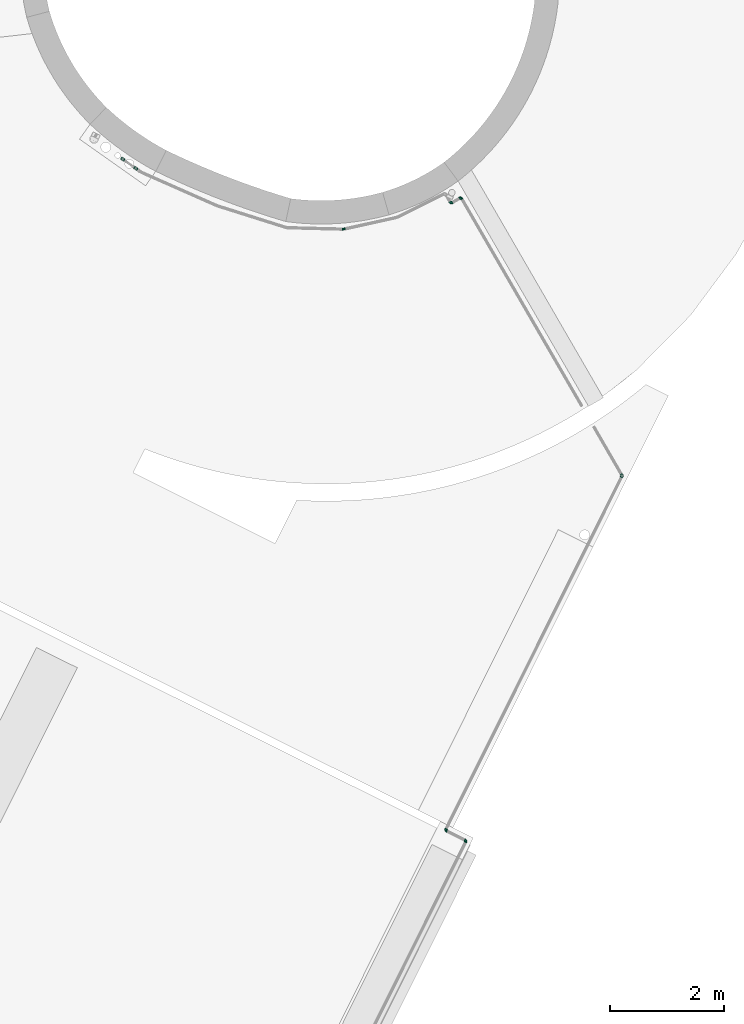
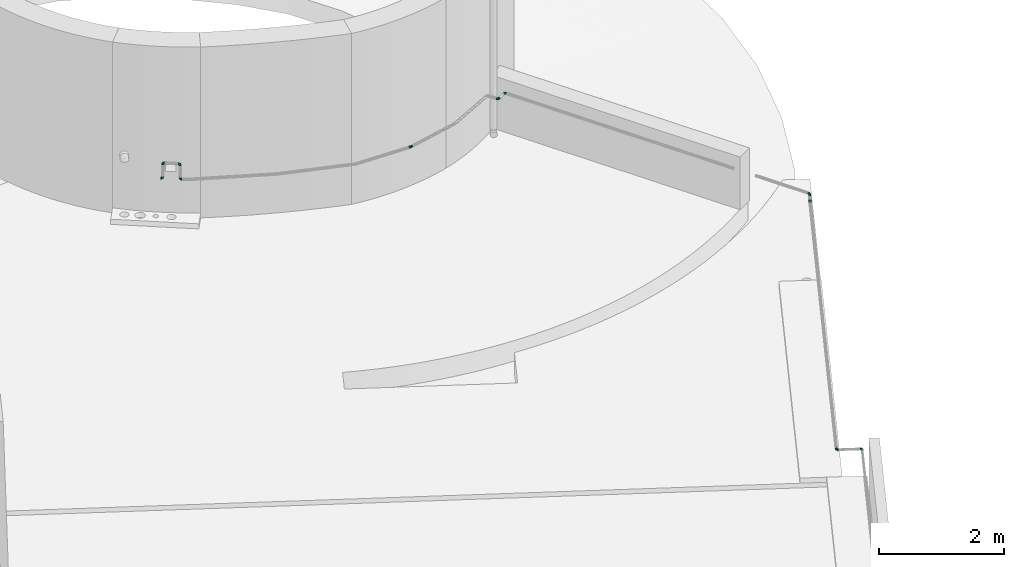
# One storey, part 29 of 34: 11 flow fittings.
"""IFC2X3 building model written with IfcOpenShell, lengths in metres."""

import ifcopenshell
import ifcopenshell.guid

model = None  # the IFC model being written
_history = None  # IfcOwnerHistory: only IFC2X3 demands one
_inside = {}  # id of a spatial element -> (the spatial element, [elements in it])
_under = {}  # id of a project, library or spatial element -> (it, [spatial elements below it])
_declared = {}  # id of a project -> (the project, [libraries it declares])
_typed = {}  # id of a type object -> (the type object, [elements of that type])
_made_of = {}  # id of a material, layer set ... -> (it, [elements and type objects made of it])


def new_model(schema):
    """Start an empty IFC model of exactly this schema.

    Asked for "IFC4X3", IfcOpenShell would pick the latest addendum, in which some entities
    have other attributes; the version numbers below select the first issue.
    IFC2X3 requires an IfcOwnerHistory on every rooted entity: one is made here for all.
    """
    global model, _history
    if schema == "IFC4X3":
        model = ifcopenshell.file(schema_version=(4, 3, 0, 0))
    else:
        model = ifcopenshell.file(schema=schema)
    _inside.clear()
    _under.clear()
    _declared.clear()
    _typed.clear()
    _made_of.clear()
    _history = None
    if model.schema == "IFC2X3":
        org = make("IfcOrganization", Name="unknown")
        user = make(
            "IfcPersonAndOrganization",
            ThePerson=make("IfcPerson", FamilyName="unknown"),
            TheOrganization=org,
        )
        app = make(
            "IfcApplication",
            ApplicationDeveloper=org,
            Version="unknown",
            ApplicationFullName="unknown",
            ApplicationIdentifier="unknown",
        )
        _history = make(
            "IfcOwnerHistory",
            OwningUser=user,
            OwningApplication=app,
            ChangeAction="ADDED",
            CreationDate=0,
        )
    return model


def make(cls, **values):
    """One entity of the class cls with the attributes given. An attribute that is None is left unset."""
    return model.create_entity(
        cls, **{name: value for name, value in values.items() if value is not None}
    )


def entity(cls, *values):
    """Any entity or typed value of the class cls, its attributes in the order of the schema. None: left unset."""
    e = model.create_entity(cls)
    for i, value in enumerate(values):
        if value is not None:
            e[i] = value
    return e


def rooted(cls, **values):
    """An entity with a GlobalId (a new one), such as an element, a storey or a relation."""
    return make(cls, GlobalId=ifcopenshell.guid.new(), OwnerHistory=_history, **values)


def si_unit(unit_type, name, prefix=None):
    """IfcSIUnit, for example si_unit("LENGTHUNIT", "METRE", prefix="MILLI")."""
    return make("IfcSIUnit", UnitType=unit_type, Prefix=prefix, Name=name)


def converted_unit(unit_type, name, factor, base, dimensions=None, offset=None):
    """IfcConversionBasedUnit, such as the inch: factor (a typed value) times the base unit."""
    return make(
        "IfcConversionBasedUnit"
        if offset is None
        else "IfcConversionBasedUnitWithOffset",
        ConversionOffset=offset,
        Dimensions=None
        if dimensions is None
        else entity("IfcDimensionalExponents", *dimensions),
        UnitType=unit_type,
        Name=name,
        ConversionFactor=make(
            "IfcMeasureWithUnit", ValueComponent=factor, UnitComponent=base
        ),
    )


def derived_unit(unit_type, elements):
    """IfcDerivedUnit: a product of units, each with its exponent."""
    return make(
        "IfcDerivedUnit",
        Elements=[
            make("IfcDerivedUnitElement", Unit=unit, Exponent=power)
            for unit, power in elements
        ],
        UnitType=unit_type,
    )


def assignment(units):
    """IfcUnitAssignment: the units of a project."""
    return None if units is None else make("IfcUnitAssignment", Units=units)


def point(xyz):
    """IfcCartesianPoint."""
    return None if xyz is None else make("IfcCartesianPoint", Coordinates=xyz)


def direction(xyz):
    """IfcDirection."""
    return None if xyz is None else make("IfcDirection", DirectionRatios=xyz)


def frame(location, z_axis=None, x_axis=None):
    """IfcAxis2Placement3D, a coordinate frame: its origin and axes. An axis left out is left unset."""
    return make(
        "IfcAxis2Placement3D",
        Location=point(location),
        Axis=direction(z_axis),
        RefDirection=direction(x_axis),
    )


def origin():
    """The frame at (0, 0, 0) with its axes left unset."""
    return frame((0.0, 0.0, 0.0))


def place(relative_to, where):
    """IfcLocalPlacement: puts the frame where relative to a parent placement (None: the world)."""
    return make(
        "IfcLocalPlacement", PlacementRelTo=relative_to, RelativePlacement=where
    )


def context(
    kind, dimensions, precision=None, world=None, true_north=None, identifier=None
):
    """IfcGeometricRepresentationContext, for example the 3D "Model" context."""
    return make(
        "IfcGeometricRepresentationContext",
        ContextIdentifier=identifier,
        ContextType=kind,
        CoordinateSpaceDimension=dimensions,
        Precision=precision,
        WorldCoordinateSystem=world,
        TrueNorth=true_north,
    )


def subcontext(parent, identifier, kind, view, scale=None):
    """IfcGeometricRepresentationSubContext, for example "Body" below "Model"."""
    return make(
        "IfcGeometricRepresentationSubContext",
        ContextIdentifier=identifier,
        ContextType=kind,
        ParentContext=parent,
        TargetScale=scale,
        TargetView=view,
    )


def project(units=None, contexts=None):
    """IfcProject with its units and contexts."""
    return rooted(
        "IfcProject",
        Name="project",
        RepresentationContexts=contexts,
        UnitsInContext=assignment(units),
    )


def spatial(cls, under=None, at=None, **own):
    """A site, building, storey or space (cls), placed at a placement, below another one or the project."""
    s = rooted(cls, ObjectPlacement=at, **own)
    if under is not None:
        _under.setdefault(under.id(), (under, []))[1].append(s)
    return s


def faces_of(points, faces, orient=None, outer=None):
    """IfcFace entities. A face is a list of loops; a loop is a list of indices into points, from 0.

    orient and outer hold one flag for each loop. By default every Orientation is true, the
    first loop of a face is its IfcFaceOuterBound and the others are IfcFaceBound.
    """
    made = []
    for i, loops in enumerate(faces):
        bounds = []
        for j, loop in enumerate(loops):
            is_outer = j == 0 if outer is None else outer[i][j]
            bounds.append(
                make(
                    "IfcFaceOuterBound" if is_outer else "IfcFaceBound",
                    Bound=make("IfcPolyLoop", Polygon=[points[k] for k in loop]),
                    Orientation=True if orient is None else orient[i][j],
                )
            )
        made.append(make("IfcFace", Bounds=bounds))
    return made


def faceted_brep(points, faces, orient=None, outer=None, voids=None):
    """IfcFacetedBrep: a solid bounded by flat faces; with voids (closed shells), ...WithVoids."""
    shared = [point(p) for p in points]
    hull = make("IfcClosedShell", CfsFaces=faces_of(shared, faces, orient, outer))
    if voids is None:
        return make("IfcFacetedBrep", Outer=hull)
    return make(
        "IfcFacetedBrepWithVoids",
        Outer=hull,
        Voids=[
            make(cls, CfsFaces=faces_of(shared, fs, o, b)) for cls, fs, o, b in voids
        ],
    )


def shape(context_of_items, identifier, shape_type, items):
    """IfcShapeRepresentation: the items that make up one representation, for example the "Body"."""
    return make(
        "IfcShapeRepresentation",
        ContextOfItems=context_of_items,
        RepresentationIdentifier=identifier,
        RepresentationType=shape_type,
        Items=items,
    )


def source(mapping_origin, context_of_items, identifier, shape_type, items):
    """IfcRepresentationMap: a shape defined once, which mapped items show again and again."""
    return make(
        "IfcRepresentationMap",
        MappingOrigin=mapping_origin,
        MappedRepresentation=shape(context_of_items, identifier, shape_type, items),
    )


def transform(
    local_origin,
    x_axis=None,
    y_axis=None,
    z_axis=None,
    scale=None,
    scale2=None,
    scale3=None,
    uniform=True,
):
    """IfcCartesianTransformationOperator3D, or its non-uniform kind. x_axis, y_axis, z_axis: its Axis1, 2, 3."""
    if uniform:
        return make(
            "IfcCartesianTransformationOperator3D",
            Axis1=direction(x_axis),
            Axis2=direction(y_axis),
            LocalOrigin=point(local_origin),
            Scale=scale,
            Axis3=direction(z_axis),
        )
    return make(
        "IfcCartesianTransformationOperator3DnonUniform",
        Axis1=direction(x_axis),
        Axis2=direction(y_axis),
        LocalOrigin=point(local_origin),
        Scale=scale,
        Axis3=direction(z_axis),
        Scale2=scale2,
        Scale3=scale3,
    )


def mapped(mapping_source, mapping_target):
    """IfcMappedItem: shows the shape of a source again, moved by a transform."""
    return make(
        "IfcMappedItem", MappingSource=mapping_source, MappingTarget=mapping_target
    )


def made_of(thing, what):
    """Note that an element or type object is made of a material, layer set ...; save() writes the relation."""
    if what is not None:
        _made_of.setdefault(what.id(), (what, []))[1].append(thing)
    return thing


def type_object(cls, material=None, **own):
    """A type object (cls), such as IfcWallType, which elements share."""
    return made_of(rooted(cls, **own), material)


def type_shapes(of_type, sources):
    """Give a type object the sources (RepresentationMaps) that its elements show as mapped items."""
    of_type.RepresentationMaps = sources


def element(
    cls,
    number,
    at=None,
    inside=None,
    cuts=None,
    type_object=None,
    material=None,
    context=None,
    identifier="Body",
    shape_type=None,
    held_by="IfcProductDefinitionShape",
    body=None,
    shapes=None,
    **own,
):
    """One element of the class cls, such as IfcWall. Its Tag is "e" and its number.

    at: its placement. inside: the storey or other place that contains it. cuts: it is an
    opening in that element (IfcRelVoidsElement). A single representation is given by context,
    identifier, shape_type and body (its items); several are given by shapes. held_by: the class
    of the entity that holds the representations. save() writes the other relations.
    """
    e = rooted(cls, Tag="e%d" % number, ObjectPlacement=at, **own)
    if body is not None:
        shapes = [shape(context, identifier, shape_type, body)]
    if shapes is not None:
        e.Representation = make(held_by, Representations=shapes)
    if inside is not None:
        _inside.setdefault(inside.id(), (inside, []))[1].append(e)
    if cuts is not None:
        rooted(
            "IfcRelVoidsElement", RelatingBuildingElement=cuts, RelatedOpeningElement=e
        )
    if type_object is not None:
        _typed.setdefault(type_object.id(), (type_object, []))[1].append(e)
    return made_of(e, material)


def aggregate(whole, parts):
    """IfcRelAggregates: a whole, such as a stair, and the parts it consists of."""
    return rooted("IfcRelAggregates", RelatingObject=whole, RelatedObjects=parts)


def save(model, path):
    """Write the relations noted so far, then the file.

    IfcRelAggregates (storeys below a building ...), IfcRelContainedInSpatialStructure (elements
    in a storey), IfcRelDefinesByType, IfcRelAssociatesMaterial and IfcRelDeclares: one each for
    every whole, place, type object, material and project.
    """
    for whole, parts in _under.values():
        aggregate(whole, parts)
    for where, things in _inside.values():
        rooted(
            "IfcRelContainedInSpatialStructure",
            RelatedElements=things,
            RelatingStructure=where,
        )
    for kind, things in _typed.values():
        rooted("IfcRelDefinesByType", RelatedObjects=things, RelatingType=kind)
    for what, things in _made_of.values():
        rooted("IfcRelAssociatesMaterial", RelatedObjects=things, RelatingMaterial=what)
    for by, libraries in _declared.values():
        rooted("IfcRelDeclares", RelatingContext=by, RelatedDefinitions=libraries)
    model.write(path)


model = new_model("IFC2X3")

# Units and contexts
model_context = context("Model", 3, precision=1e-05, world=origin(), true_north=direction((0.894925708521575, 0.446215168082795)))
context_of_model = context(None, 3, precision=1e-05, world=origin(), true_north=direction((0.894925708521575, 0.446215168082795)))
body_context = subcontext(model_context, "Body", "Model", "MODEL_VIEW")
ifc_project = project(units=[si_unit("LENGTHUNIT", "METRE"), si_unit("AREAUNIT", "SQUARE_METRE"), si_unit("VOLUMEUNIT", "CUBIC_METRE"), converted_unit("PLANEANGLEUNIT", "DEGREE", entity("IfcRatioMeasure", 0.0174532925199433), si_unit("PLANEANGLEUNIT", "RADIAN"), dimensions=[0, 0, 0, 0, 0, 0, 0]), si_unit("MASSUNIT", "GRAM", prefix="KILO"), si_unit("TIMEUNIT", "SECOND"), si_unit("FREQUENCYUNIT", "HERTZ"), si_unit("THERMODYNAMICTEMPERATUREUNIT", "DEGREE_CELSIUS"), derived_unit("THERMALTRANSMITTANCEUNIT", [(si_unit("MASSUNIT", "GRAM", prefix="KILO"), 1), (si_unit("THERMODYNAMICTEMPERATUREUNIT", "KELVIN"), -1), (si_unit("TIMEUNIT", "SECOND"), -3)]), derived_unit("VOLUMETRICFLOWRATEUNIT", [(si_unit("LENGTHUNIT", "METRE"), 3), (si_unit("TIMEUNIT", "SECOND"), -1)]), si_unit("ELECTRICCURRENTUNIT", "AMPERE"), si_unit("ELECTRICVOLTAGEUNIT", "VOLT"), si_unit("POWERUNIT", "WATT"), si_unit("FORCEUNIT", "NEWTON", prefix="KILO"), si_unit("ILLUMINANCEUNIT", "LUX"), si_unit("LUMINOUSFLUXUNIT", "LUMEN"), si_unit("LUMINOUSINTENSITYUNIT", "CANDELA"), si_unit("PRESSUREUNIT", "PASCAL")], contexts=[model_context, context_of_model])

# Site, building, storey
site_placement = place(None, frame((218.228324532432, 584.720189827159, 0.0), z_axis=(0.0, 0.0, 1.0), x_axis=(0.446215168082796, 0.894925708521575, 0.0)))
site = spatial("IfcSite", under=ifc_project, at=site_placement, Name="Default", CompositionType="ELEMENT")
building_placement = place(site_placement, origin())
building = spatial("IfcBuilding", under=site, at=building_placement, CompositionType="ELEMENT")
storey_placement = place(building_placement, frame((0.0, 0.0, 8.61)))
storey = spatial("IfcBuildingStorey", under=building, at=storey_placement, Name="2 - Piano Secondo", CompositionType="ELEMENT", Elevation=8.61)

# Flow fittings
pipe_fitting_type_1 = type_object("IfcPipeFittingType", Name="Standard", PredefinedType="NOTDEFINED")
shared_shape_1 = source(origin(), body_context, "Body", "Brep", [
    faceted_brep([(-0.0319999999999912, 0.0105499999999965, -0.0182731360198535), (-0.0319999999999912, 0.00546108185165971, -0.0203810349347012), (-0.0319999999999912, 0.0, -0.0211000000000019), (-0.0319999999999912, -0.00546108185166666, -0.0203810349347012), (-0.0319999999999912, -0.0105500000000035, -0.0182731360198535), (-0.0319999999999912, -0.0149199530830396, -0.0149199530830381), (-0.0319999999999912, -0.0182731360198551, -0.0105500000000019), (-0.0319999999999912, -0.0203810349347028, -0.00546108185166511), (-0.0319999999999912, -0.0211000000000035, 0.0), (-0.0319999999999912, -0.0203810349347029, 0.00546108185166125), (-0.0319999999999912, -0.0182731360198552, 0.0105499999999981), (-0.0319999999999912, -0.0149199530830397, 0.0149199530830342), (-0.0319999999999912, -0.0105500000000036, 0.0182731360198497), (-0.0319999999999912, -0.00546108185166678, 0.0203810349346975), (-0.0319999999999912, 0.0, 0.0210999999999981), (-0.0319999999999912, 0.00546108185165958, 0.0203810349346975), (-0.0319999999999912, 0.00800554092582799, 0.0193270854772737), (-0.0319999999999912, 0.0105499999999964, 0.0182731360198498), (-0.0319999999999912, 0.0149199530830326, 0.0149199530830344), (-0.0319999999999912, 0.0182731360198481, 0.0105499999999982), (-0.0319999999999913, 0.0203810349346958, 0.00546108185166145), (-0.0319999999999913, 0.0210999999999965, 0.0), (-0.0319999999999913, 0.0203810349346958, -0.00546108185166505), (-0.0319999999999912, 0.0182731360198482, -0.0105500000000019), (-0.0319999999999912, 0.0149199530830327, -0.014919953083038), (0.0, 0.0319999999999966, -0.0211000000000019), (-0.00546108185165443, 0.0319999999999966, -0.0203810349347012), (-0.0105499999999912, 0.0319999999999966, -0.0182731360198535), (-0.0149199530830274, 0.0319999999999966, -0.014919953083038), (-0.0182731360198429, 0.0319999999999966, -0.0105500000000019), (-0.0203810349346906, 0.0319999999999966, -0.00546108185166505), (-0.0210999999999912, 0.0319999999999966, 0.0), (-0.0203810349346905, 0.0319999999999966, 0.00546108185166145), (-0.0182731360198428, 0.0319999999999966, 0.0105499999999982), (-0.0149199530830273, 0.0319999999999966, 0.0149199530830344), (-0.0105499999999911, 0.0319999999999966, 0.0182731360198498), (-0.00800554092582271, 0.0319999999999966, 0.0193270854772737), (-0.0054610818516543, 0.0319999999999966, 0.0203810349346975), (0.0, 0.0319999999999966, 0.0210999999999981), (0.00546108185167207, 0.0319999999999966, 0.0203810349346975), (0.0105500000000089, 0.0319999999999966, 0.0182731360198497), (0.014919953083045, 0.0319999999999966, 0.0149199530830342), (0.0165965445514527, 0.0319999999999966, 0.0127349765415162), (0.0182731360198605, 0.0319999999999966, 0.0105499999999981), (0.0203810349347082, 0.0319999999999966, 0.00546108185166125), (0.0211000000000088, 0.0319999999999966, 0.0), (0.0203810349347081, 0.0319999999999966, -0.00546108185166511), (0.0182731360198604, 0.0319999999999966, -0.0105500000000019), (0.0149199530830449, 0.0319999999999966, -0.0149199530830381), (0.0105500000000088, 0.0319999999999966, -0.0182731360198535), (0.00546108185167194, 0.0319999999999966, -0.0203810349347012), (-0.00222604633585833, 0.023728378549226, 0.0210713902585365), (0.00334042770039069, 0.0236615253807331, 0.0206549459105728), (-0.00900645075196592, -0.00960577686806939, 0.014276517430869), (-0.0209292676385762, -0.0130218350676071, 0.0154568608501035), (-0.0145908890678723, -0.0153912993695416, 0.0101692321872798), (-0.0217190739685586, -0.0190549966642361, 0.0), (-0.0220282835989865, -0.0191631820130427, 0.00633714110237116), (0.0170981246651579, 0.0147219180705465, 0.00657454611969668), (0.0192914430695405, 0.0230467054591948, 0.00652112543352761), (0.0165175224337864, 0.0200572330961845, 0.0110652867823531), (-0.0238201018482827, -0.0169140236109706, 0.0116484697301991), (0.00422109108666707, 0.00733524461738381, 0.0174775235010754), (-0.00183936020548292, -0.00157306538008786, 0.0165161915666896), (0.00494762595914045, 0.000859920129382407, 0.0133740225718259), (-0.0231100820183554, -0.0085835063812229, 0.0188172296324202), (-0.0268497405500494, 0.00624646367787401, 0.0203052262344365), (-0.0237283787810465, 0.00222604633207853, 0.0210713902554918), (0.00636919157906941, -0.00389652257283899, 0.00481660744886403), (0.00885765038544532, 0.00100436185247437, 0.00856309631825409), (0.00317363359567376, -0.0049364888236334, 0.00916667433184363), (0.0190549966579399, 0.021719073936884, 0.0), (-0.0249753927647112, 0.0127272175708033, 0.0176991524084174), (-0.0219437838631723, 0.00803535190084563, 0.0202256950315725), (-0.0080353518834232, 0.0219437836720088, 0.0202256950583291), (-0.0127272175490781, 0.0249753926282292, 0.017699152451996), (-0.0135012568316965, 0.0177999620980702, 0.0192321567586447), (-0.0259094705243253, 0.0169310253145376, 0.0140445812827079), (-0.0243638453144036, -0.00336513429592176, 0.0206817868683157), (-0.0083182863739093, -0.00215621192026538, 0.0188085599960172), (-0.0155459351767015, -0.00207489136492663, 0.0202758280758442), (-0.014962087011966, -0.00661982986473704, 0.0184646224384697), (-0.024116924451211, 0.0234834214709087, 0.00540852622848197), (-0.0260761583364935, 0.02023403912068, 0.00952662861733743), (0.0131866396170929, 0.0228304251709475, 0.0156902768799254), (0.0177597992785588, 0.0259911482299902, 0.0108087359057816), (-0.0196183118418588, 0.0196183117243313, 0.0153381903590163), (0.00836704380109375, 0.0205044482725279, 0.0185948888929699), (-0.0054260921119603, 0.0157915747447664, 0.0210819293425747), (-0.0119915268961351, 0.0119915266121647, 0.0207723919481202), (-0.00791438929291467, 0.00583732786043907, 0.0207972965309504), (-0.000718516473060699, -0.00512241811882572, 0.0130949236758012), (-0.0157915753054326, 0.00542609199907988, 0.0210819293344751), (-0.0175404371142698, 0.0125520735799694, 0.0196189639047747), (-0.00624646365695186, 0.0268497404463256, 0.0203052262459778), (-0.0030660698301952, -0.011302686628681, 0.0), (0.000544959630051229, -0.00927179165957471, 0.00474379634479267), (-0.00924044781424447, -0.0152715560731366, 0.00513668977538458), (-0.0025011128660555, 0.00396354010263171, 0.0192243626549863), (0.0111873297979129, 0.0121560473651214, 0.0142858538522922), (0.0142348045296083, 0.013520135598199, 0.0113438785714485), (-0.021173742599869, 0.0270533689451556, 0.00642753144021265), (0.0170580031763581, 0.0116795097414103, 0.0), (-0.0209433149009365, 0.0244619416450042, 0.0099283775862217), (-0.0169310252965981, 0.0259094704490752, 0.0140445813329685), (0.00815725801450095, 0.0134412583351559, 0.0171881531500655), (0.00158972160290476, 0.0138945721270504, 0.0201812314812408), (-0.0242925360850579, 0.0242925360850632, 0.0), (-0.0156139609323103, -0.0173765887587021, 0.00665048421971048), (-0.0116795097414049, -0.0170580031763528, 0.0), (0.00554737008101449, -0.00554737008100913, 0.0), (0.0113026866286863, 0.00306606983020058, 0.0), (0.0108450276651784, 0.00147671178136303, 0.0045400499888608), (0.0112958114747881, 0.00704585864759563, 0.0110546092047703), (-0.0180945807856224, 0.016544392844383, 0.0178760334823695), (-0.00497912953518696, -0.0112747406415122, 0.00913935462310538), (-0.00893572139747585, -0.00624353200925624, 0.0168798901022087), (-0.0156916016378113, 0.021034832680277, 0.0171095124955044), (-0.00342686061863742, 0.0112043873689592, 0.0208340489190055), (0.0134913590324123, 0.00703921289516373, 0.00704441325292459), (0.00841568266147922, 0.00627762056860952, 0.0138629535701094), (0.0139147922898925, 0.0140606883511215, -0.0120870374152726), (0.0170731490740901, 0.0143997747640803, -0.00631163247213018), (0.0133973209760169, 0.00669108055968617, -0.00679612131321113), (-0.0167699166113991, 0.00347561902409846, -0.0210973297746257), (-0.0230301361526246, 0.00785302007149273, -0.0201559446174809), (-0.0147344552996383, 0.0101848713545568, -0.0206819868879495), (-0.0249600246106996, 0.0021654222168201, -0.0210570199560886), (-0.0269235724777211, 0.0219306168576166, -0.00396891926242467), (-0.0108637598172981, -0.00653031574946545, -0.0173920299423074), (-0.0194617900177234, -0.00823414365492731, -0.018502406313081), (-0.0125598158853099, -0.00220699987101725, -0.0197802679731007), (-0.0268338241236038, 0.0205122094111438, -0.00828818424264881), (-0.024883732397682, 0.0171837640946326, -0.0142474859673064), (-0.0228721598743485, -0.0192710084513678, -0.00648971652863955), (-0.0193464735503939, -0.0164084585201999, -0.0109522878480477), (-0.0143997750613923, -0.0170731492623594, -0.00631163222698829), (-0.0266001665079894, -0.0170138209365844, -0.0120648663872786), (-0.00785301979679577, 0.0230301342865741, -0.0201559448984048), (-0.0252598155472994, 0.0126864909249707, -0.0176618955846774), (-0.0230841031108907, -0.0033100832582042, -0.0206322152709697), (-0.020019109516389, 0.0119073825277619, -0.0192649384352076), (-0.0225715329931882, -0.0131689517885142, -0.0156588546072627), (0.0164084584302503, 0.0193464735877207, -0.0109522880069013), (0.0170138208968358, 0.0266001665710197, -0.0120648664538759), (0.019271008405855, 0.0228721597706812, -0.00648971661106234), (-0.0105318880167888, -0.0106441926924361, -0.0140486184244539), (-0.017183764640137, 0.0248837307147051, -0.014247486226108), (-0.0266864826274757, -0.0086126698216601, -0.0191036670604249), (0.0033100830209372, 0.0230841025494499, -0.0206322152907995), (-0.0222937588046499, 0.0222937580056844, -0.0105497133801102), (-0.020353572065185, 0.0203535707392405, -0.0142844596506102), (-0.0221527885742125, 0.0262370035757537, -0.00460941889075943), (-0.00807833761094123, 0.00807833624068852, -0.0210204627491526), (-0.0126864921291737, 0.0252598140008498, -0.0176618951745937), (-0.0021654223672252, 0.0249600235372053, -0.0210570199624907), (0.0131689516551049, 0.022571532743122, -0.0156588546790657), (-0.0202234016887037, 0.0270426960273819, -0.00870077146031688), (0.00220699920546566, 0.0125598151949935, -0.0197802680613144), (0.00404629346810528, 0.00564706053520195, -0.0168858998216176), (-0.00350668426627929, 0.00350668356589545, -0.0194008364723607), (0.00861266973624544, 0.0266864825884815, -0.019103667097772), (0.00823414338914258, 0.019461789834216, -0.0185024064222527), (0.00902992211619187, 0.00178506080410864, -0.00926949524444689), (0.00883192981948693, -0.00110649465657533, -0.00471271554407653), (-0.00347562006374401, 0.0167699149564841, -0.0210973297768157), (0.0120396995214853, 0.00786660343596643, -0.010643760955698), (-0.00165984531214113, -0.00597168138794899, -0.0130195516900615), (-0.00858690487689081, -0.0124343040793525, -0.0106324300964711), (0.0106441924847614, 0.0105318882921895, -0.0140486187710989), (0.00627836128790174, 0.0123278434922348, -0.0179828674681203), (-0.0164380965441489, 0.0206141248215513, -0.0168366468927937), (-0.0160857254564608, 0.0160857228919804, -0.0188434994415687), (-0.0206141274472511, 0.0164380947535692, -0.0168366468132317), (-0.0106154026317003, 0.0161949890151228, -0.0203950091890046), (-0.00669108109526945, -0.0133973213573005, -0.00679612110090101), (0.00175955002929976, -0.00801862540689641, -0.00555203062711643), (-0.00301871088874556, -0.00338565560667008, -0.0160140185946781), (0.0034281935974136, -0.00342819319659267, -0.0108392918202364), (-0.00243028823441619, -0.00914614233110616, -0.00983204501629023), (-0.00670255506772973, -0.00186855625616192, -0.0184300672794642), (0.00640730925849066, 0.00275638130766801, -0.0134309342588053)], [[[0, 1, 2, 3, 4, 5, 6, 7, 8, 9, 10, 11, 12, 13, 14, 15, 16, 17, 18, 19, 20, 21, 22, 23, 24]], [[25, 26, 27, 28, 29, 30, 31, 32, 33, 34, 35, 36, 37, 38, 39, 40, 41, 42, 43, 44, 45, 46, 47, 48, 49, 50]], [[38, 51, 52]], [[53, 54, 55]], [[9, 56, 57]], [[58, 59, 60]], [[61, 11, 10]], [[9, 8, 56]], [[62, 63, 64]], [[54, 11, 61]], [[54, 65, 12]], [[17, 16, 15, 66]], [[15, 14, 67]], [[68, 69, 70]], [[45, 44, 71]], [[72, 66, 73]], [[74, 75, 76]], [[77, 19, 18]], [[78, 14, 13]], [[66, 72, 17]], [[79, 80, 81]], [[82, 20, 83]], [[84, 85, 41]], [[21, 20, 82]], [[83, 77, 86]], [[87, 84, 40]], [[72, 18, 17]], [[88, 89, 90]], [[70, 64, 91]], [[73, 92, 93]], [[39, 38, 52]], [[73, 67, 92]], [[84, 41, 40]], [[40, 39, 87]], [[36, 35, 94, 37]], [[59, 44, 43]], [[95, 96, 97]], [[35, 34, 75]], [[63, 62, 98]], [[85, 59, 43]], [[64, 70, 69]], [[74, 88, 51]], [[99, 100, 84]], [[101, 33, 32]], [[59, 102, 71]], [[103, 86, 104]], [[105, 106, 62]], [[82, 101, 107]], [[9, 57, 10]], [[94, 35, 75]], [[77, 83, 19]], [[97, 108, 109]], [[34, 33, 104]], [[51, 38, 37]], [[107, 101, 31]], [[12, 65, 13]], [[54, 12, 11]], [[110, 111, 112]], [[100, 99, 113]], [[109, 57, 56]], [[57, 108, 61]], [[104, 75, 34]], [[74, 76, 89]], [[88, 74, 89]], [[106, 87, 52]], [[78, 67, 14]], [[80, 90, 92]], [[93, 89, 76]], [[72, 114, 77]], [[70, 91, 115]], [[63, 79, 116]], [[115, 53, 55]], [[70, 96, 68]], [[58, 60, 100]], [[71, 44, 59]], [[84, 87, 105]], [[85, 43, 42, 41]], [[81, 54, 53]], [[65, 81, 78]], [[106, 52, 51]], [[87, 39, 52]], [[103, 104, 33]], [[104, 86, 117]], [[72, 77, 18]], [[83, 86, 103]], [[82, 83, 103]], [[20, 19, 83]], [[57, 61, 10]], [[54, 61, 55]], [[101, 82, 103]], [[82, 107, 21]], [[65, 78, 13]], [[67, 78, 80]], [[86, 114, 117]], [[114, 72, 93]], [[92, 89, 93]], [[106, 51, 88]], [[98, 79, 63]], [[118, 88, 90]], [[80, 92, 67]], [[90, 89, 92]], [[119, 102, 58]], [[102, 59, 58]], [[114, 93, 76]], [[72, 73, 93]], [[55, 97, 115]], [[96, 70, 115]], [[108, 97, 55]], [[96, 110, 68]], [[95, 97, 109]], [[97, 96, 115]], [[110, 96, 95]], [[112, 119, 69]], [[68, 112, 69]], [[119, 113, 69]], [[102, 119, 111]], [[64, 63, 91]], [[113, 64, 69]], [[118, 98, 106]], [[113, 120, 64]], [[62, 120, 105]], [[119, 58, 100]], [[113, 99, 120]], [[100, 113, 119]], [[84, 100, 60]], [[110, 112, 68]], [[111, 119, 112]], [[117, 76, 75]], [[114, 86, 77]], [[76, 117, 114]], [[104, 117, 75]], [[106, 98, 62]], [[79, 90, 80]], [[90, 79, 98]], [[78, 81, 80]], [[54, 81, 65]], [[116, 79, 81]], [[105, 120, 99]], [[62, 64, 120]], [[116, 91, 63]], [[115, 91, 53]], [[81, 53, 116]], [[116, 53, 91]], [[94, 75, 74]], [[74, 51, 94]], [[51, 37, 94]], [[73, 66, 67]], [[15, 67, 66]], [[85, 84, 60]], [[59, 85, 60]], [[33, 101, 103]], [[31, 101, 32]], [[98, 118, 90]], [[106, 88, 118]], [[61, 108, 55]], [[109, 108, 57]], [[84, 105, 99]], [[106, 105, 87]], [[121, 122, 123]], [[124, 125, 126]], [[124, 127, 125]], [[127, 2, 1]], [[21, 128, 22]], [[129, 130, 131]], [[132, 133, 23]], [[134, 135, 136]], [[24, 23, 133]], [[5, 137, 6]], [[26, 138, 27]], [[0, 24, 139]], [[109, 56, 134]], [[140, 3, 2]], [[134, 7, 6]], [[125, 141, 126]], [[142, 5, 4]], [[143, 144, 145]], [[135, 142, 146]], [[29, 28, 147]], [[137, 134, 6]], [[4, 148, 142]], [[148, 140, 130]], [[148, 4, 3]], [[50, 149, 25]], [[130, 140, 131]], [[21, 107, 128]], [[150, 151, 133]], [[31, 30, 152]], [[46, 45, 71]], [[126, 153, 124]], [[132, 22, 128]], [[154, 147, 28]], [[26, 155, 138]], [[26, 25, 155]], [[48, 156, 49]], [[144, 48, 47]], [[150, 157, 147]], [[158, 159, 160]], [[161, 149, 50]], [[161, 156, 162]], [[125, 1, 0]], [[163, 123, 164]], [[165, 149, 158]], [[157, 150, 152]], [[161, 50, 49]], [[139, 24, 133]], [[145, 122, 143]], [[121, 123, 166]], [[56, 8, 7]], [[146, 167, 168]], [[169, 162, 156]], [[159, 158, 170]], [[47, 46, 145]], [[171, 172, 173]], [[150, 132, 152]], [[28, 27, 154]], [[165, 153, 174]], [[151, 150, 147]], [[139, 141, 125]], [[123, 102, 111]], [[95, 175, 176]], [[164, 123, 111]], [[159, 177, 160]], [[178, 176, 179]], [[178, 164, 176]], [[144, 156, 48]], [[156, 143, 121]], [[158, 149, 162]], [[155, 149, 165]], [[170, 169, 159]], [[158, 160, 153]], [[146, 142, 130]], [[137, 142, 135]], [[127, 140, 2]], [[124, 153, 131]], [[124, 131, 140]], [[180, 129, 131]], [[168, 136, 135]], [[56, 7, 134]], [[46, 71, 145]], [[102, 145, 71]], [[27, 138, 154]], [[154, 138, 174]], [[173, 133, 151]], [[125, 0, 139]], [[169, 166, 181]], [[178, 179, 167]], [[177, 159, 181]], [[146, 130, 129]], [[125, 127, 1]], [[140, 127, 124]], [[149, 155, 25]], [[138, 155, 165]], [[174, 126, 172]], [[126, 174, 153]], [[158, 153, 165]], [[131, 153, 160]], [[175, 109, 136]], [[109, 134, 136]], [[145, 102, 122]], [[102, 123, 122]], [[152, 128, 107]], [[128, 152, 132]], [[31, 152, 107]], [[152, 30, 157]], [[133, 132, 150]], [[23, 22, 132]], [[30, 29, 157]], [[147, 157, 29]], [[154, 174, 172]], [[165, 174, 138]], [[176, 164, 110]], [[164, 111, 110]], [[163, 164, 178]], [[95, 109, 175]], [[176, 175, 179]], [[176, 110, 95]], [[181, 163, 178]], [[166, 123, 163]], [[181, 178, 167]], [[169, 181, 159]], [[181, 166, 163]], [[121, 166, 169]], [[156, 121, 169]], [[122, 121, 143]], [[168, 179, 175]], [[167, 146, 177]], [[136, 168, 175]], [[135, 146, 168]], [[167, 179, 168]], [[181, 167, 177]], [[180, 131, 160]], [[146, 129, 177]], [[160, 177, 180]], [[177, 129, 180]], [[156, 161, 49]], [[149, 161, 162]], [[145, 144, 47]], [[156, 144, 143]], [[140, 148, 3]], [[142, 148, 130]], [[142, 137, 5]], [[134, 137, 135]], [[171, 151, 147]], [[151, 171, 173]], [[147, 154, 171]], [[154, 172, 171]], [[141, 173, 172]], [[139, 133, 173]], [[173, 141, 139]], [[126, 141, 172]], [[158, 162, 170]], [[169, 170, 162]]]),
])
type_shapes(pipe_fitting_type_1, [shared_shape_1])
flow_fitting_1_placement = place(storey_placement, frame((58.8659369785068, -13.1110789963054, 0.7)))
element("IfcFlowFitting", 1, at=flow_fitting_1_placement, inside=storey, type_object=pipe_fitting_type_1, Name="M_Gomito - Saldato - Generico:Standard", ObjectType="Standard", context=body_context, shape_type="MappedRepresentation", body=[
    mapped(shared_shape_1, transform((0.0, 0.0, 0.0), scale=1.0)),
])
for number, where, z_axis, x_axis, name in (
    (2, (58.8659369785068, -12.7010789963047, 0.7), (0.0, 0.0, 1.0), (-1.0, 0.0, 0.0), "M_Gomito - Saldato - Generico:Standard"),
    (3, (68.7525867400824, -7.88036150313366, 0.85), (0.0, 0.0, 1.0), (-0.550824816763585, -0.834620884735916, 0.0), "M_Gomito - Saldato - Generico:Standard"),
    (4, (68.9237511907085, -7.99332492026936, 0.849999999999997), (0.0, 0.0, 1.0), (0.550824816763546, 0.834620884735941, 0.0), "M_Gomito - Saldato - Generico:Standard"),
    (5, (65.8167743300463, -12.7010789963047, 0.700000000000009), (0.0, -1.0, 0.0), (1.0, 0.0, 0.0), "M_Gomito - Saldato - Generico:Standard"),
    (6, (65.8167743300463, -12.7010789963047, 0.85), (0.834620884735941, -0.550824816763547, 0.0), (-0.550824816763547, -0.834620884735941, 0.0), "M_Gomito - Saldato - Generico:Standard"),
    (7, (66.8769810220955, -2.3822521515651, 0.850000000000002), (-0.988414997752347, 0.151775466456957, 0.0), (-0.151775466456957, -0.988414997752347, 0.0), "M_Gomito - Saldato - Generico:Standard"),
    (8, (66.8769810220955, -2.3822521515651, 1.15), (0.988414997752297, -0.151775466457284, 0.0), (0.0, 0.0, 1.0), "M_Gomito - Saldato - Generico:Standard"),
    (9, (66.8344838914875, -2.65900835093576, 0.850000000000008), (0.98841499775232, -0.151775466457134, 0.0), (0.151775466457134, 0.98841499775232, 0.0), "M_Gomito - Saldato - Generico:Standard"),
    (10, (66.8344838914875, -2.65900835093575, 1.15), (0.988414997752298, -0.151775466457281, 0.0), (-0.151775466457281, -0.988414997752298, 0.0), "M_Gomito - Saldato - Generico:Standard"),
):
    element("IfcFlowFitting", number, at=place(storey_placement, frame(where, z_axis=z_axis, x_axis=x_axis)), inside=storey, type_object=pipe_fitting_type_1, Name=name, ObjectType="Standard", context=body_context, shape_type="MappedRepresentation", body=[
        mapped(shared_shape_1, transform((0.0, 0.0, 0.0), scale=1.0)),
    ])
pipe_fitting_type_2 = type_object("IfcPipeFittingType", Name="Standard", PredefinedType="NOTDEFINED")
shared_shape_2 = source(origin(), body_context, "Body", "Brep", [
    faceted_brep([(-0.0319999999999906, 0.0105499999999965, -0.0182731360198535), (-0.0319999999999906, 0.00546108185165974, -0.0203810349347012), (-0.0319999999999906, 0.0, -0.0211000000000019), (-0.0319999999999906, -0.00546108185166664, -0.0203810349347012), (-0.0319999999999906, -0.0105500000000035, -0.0182731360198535), (-0.0319999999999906, -0.0149199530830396, -0.0149199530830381), (-0.0319999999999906, -0.0182731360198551, -0.0105500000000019), (-0.0319999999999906, -0.0203810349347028, -0.00546108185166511), (-0.0319999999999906, -0.0211000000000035, 0.0), (-0.0319999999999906, -0.0203810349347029, 0.00546108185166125), (-0.0319999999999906, -0.0182731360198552, 0.0105499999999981), (-0.0319999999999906, -0.0149199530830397, 0.0149199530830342), (-0.0319999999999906, -0.0105500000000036, 0.0182731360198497), (-0.0319999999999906, -0.00546108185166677, 0.0203810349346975), (-0.0319999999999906, 0.0, 0.0210999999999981), (-0.0319999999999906, 0.0054610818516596, 0.0203810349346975), (-0.0319999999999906, 0.0105499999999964, 0.0182731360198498), (-0.0319999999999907, 0.0149199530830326, 0.0149199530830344), (-0.0319999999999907, 0.0182731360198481, 0.0105499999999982), (-0.0319999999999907, 0.0203810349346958, 0.00546108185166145), (-0.0319999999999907, 0.0210999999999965, 0.0), (-0.0319999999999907, 0.0203810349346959, -0.00546108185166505), (-0.0319999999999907, 0.0182731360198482, -0.0105500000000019), (-0.0319999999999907, 0.0149199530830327, -0.014919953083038), (0.0310494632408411, 0.00774150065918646, -0.0211000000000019), (0.0297283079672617, 0.0130403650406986, -0.0203810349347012), (0.0284971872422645, 0.0179781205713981, -0.0182731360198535), (0.0274399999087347, 0.0222182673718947, -0.014919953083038), (0.0266287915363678, 0.0254718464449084, -0.0105500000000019), (0.0261188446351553, 0.0275171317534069, -0.00546108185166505), (0.0259449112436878, 0.0282147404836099, 0.0), (0.0261188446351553, 0.0275171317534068, 0.00546108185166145), (0.0266287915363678, 0.0254718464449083, 0.0105499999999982), (0.0274399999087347, 0.0222182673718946, 0.0149199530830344), (0.0284971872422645, 0.017978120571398, 0.0182731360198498), (0.0297283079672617, 0.0130403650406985, 0.0203810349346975), (0.0310494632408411, 0.00774150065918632, 0.0210999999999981), (0.0323706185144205, 0.00244263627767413, 0.0203810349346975), (0.0336017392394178, -0.00249511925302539, 0.0182731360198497), (0.0346589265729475, -0.00673526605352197, 0.0149199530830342), (0.0354701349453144, -0.00998884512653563, 0.0105499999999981), (0.0359800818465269, -0.0120341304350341, 0.00546108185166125), (0.0361540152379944, -0.0127317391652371, 0.0), (0.0359800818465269, -0.0120341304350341, -0.00546108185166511), (0.0354701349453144, -0.00998884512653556, -0.0105500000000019), (0.0346589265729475, -0.00673526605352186, -0.0149199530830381), (0.0336017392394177, -0.00249511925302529, -0.0182731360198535), (0.0323706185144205, 0.00244263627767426, -0.0203810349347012), (0.00180471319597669, -0.0146982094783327, 0.0128108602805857), (0.00133095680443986, -0.0108397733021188, 0.0167139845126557), (0.00210315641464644, -0.017128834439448, 0.00871816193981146), (0.000750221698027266, -0.00611006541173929, 0.0194778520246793), (0.0001020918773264, -0.000831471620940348, 0.0209140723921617), (-0.000569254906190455, 0.00463620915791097, 0.0209247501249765), (0.00227462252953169, -0.018525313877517, 0.00446743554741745), (-0.00227569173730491, 0.018534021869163, 0.0128757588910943), (-0.00180009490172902, 0.01466059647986, 0.0167637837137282), (-0.00261243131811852, 0.0212765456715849, 0.00811009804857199), (-0.0027561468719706, 0.0224470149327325, 0.00429431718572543), (-0.0012180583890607, 0.00992028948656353, 0.0195091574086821), (0.00233291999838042, -0.0190001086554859, 0.0), (-0.00280996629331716, 0.0228853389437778, 0.0), (0.000102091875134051, -0.000831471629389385, -0.0209140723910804), (-0.00275614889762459, 0.0224470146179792, -0.00429431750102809), (-0.000569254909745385, 0.00463620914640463, -0.0209247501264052), (-0.00261243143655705, 0.0212765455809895, -0.00811009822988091), (0.00590008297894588, -0.0181340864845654, -0.00409512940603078), (0.00213919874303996, -0.0174223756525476, -0.0080345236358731), (-0.00180009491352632, 0.0146605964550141, -0.0167637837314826), (0.00180471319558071, -0.0146982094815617, -0.0128108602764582), (0.00133095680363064, -0.0108397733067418, -0.0167139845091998), (-0.00121805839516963, 0.0099202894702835, -0.0195091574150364), (-0.00227569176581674, 0.0185340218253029, -0.0128757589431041), (0.000750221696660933, -0.00611006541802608, -0.0194778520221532)], [[[0, 1, 2, 3, 4, 5, 6, 7, 8, 9, 10, 11, 12, 13, 14, 15, 16, 17, 18, 19, 20, 21, 22, 23]], [[24, 25, 26, 27, 28, 29, 30, 31, 32, 33, 34, 35, 36, 37, 38, 39, 40, 41, 42, 43, 44, 45, 46, 47]], [[10, 48, 11]], [[12, 11, 49]], [[10, 9, 50]], [[40, 39, 48]], [[48, 49, 11]], [[13, 12, 51]], [[49, 51, 12]], [[14, 13, 52]], [[14, 53, 15]], [[39, 38, 49]], [[40, 48, 50]], [[50, 9, 54]], [[17, 55, 18]], [[56, 17, 16]], [[37, 36, 52]], [[51, 52, 13]], [[36, 35, 53]], [[19, 57, 58]], [[50, 48, 10]], [[20, 19, 58]], [[19, 18, 57]], [[53, 59, 15]], [[16, 15, 59]], [[52, 53, 14]], [[8, 60, 54]], [[38, 37, 51]], [[52, 51, 37]], [[38, 51, 49]], [[20, 58, 61]], [[53, 52, 36]], [[50, 41, 40]], [[42, 54, 60]], [[39, 49, 48]], [[42, 41, 54]], [[8, 54, 9]], [[58, 57, 31]], [[61, 58, 30]], [[34, 33, 56]], [[59, 56, 16]], [[32, 31, 57]], [[59, 34, 56]], [[33, 32, 55]], [[33, 55, 56]], [[55, 57, 18]], [[55, 32, 57]], [[53, 35, 59]], [[56, 55, 17]], [[30, 58, 31]], [[54, 41, 50]], [[35, 34, 59]], [[3, 2, 62]], [[30, 63, 61]], [[20, 63, 21]], [[2, 1, 64]], [[65, 22, 21]], [[66, 67, 43]], [[23, 68, 0]], [[69, 70, 45]], [[1, 0, 71]], [[65, 21, 63]], [[72, 65, 28]], [[22, 72, 23]], [[8, 7, 66]], [[7, 67, 66]], [[70, 5, 4]], [[66, 60, 8]], [[7, 6, 67]], [[5, 69, 6]], [[73, 4, 3]], [[69, 5, 70]], [[20, 61, 63]], [[42, 66, 43]], [[30, 29, 63]], [[70, 4, 73]], [[67, 6, 69]], [[28, 65, 29]], [[68, 27, 26]], [[67, 69, 44]], [[26, 25, 71]], [[68, 23, 72]], [[71, 68, 26]], [[27, 72, 28]], [[72, 22, 65]], [[24, 64, 25]], [[73, 47, 46]], [[71, 0, 68]], [[62, 64, 24]], [[70, 46, 45]], [[44, 43, 67]], [[73, 62, 47]], [[42, 60, 66]], [[70, 73, 46]], [[62, 2, 64]], [[69, 45, 44]], [[64, 1, 71]], [[47, 62, 24]], [[64, 71, 25]], [[63, 29, 65]], [[68, 72, 27]], [[73, 3, 62]]]),
])
type_shapes(pipe_fitting_type_2, [shared_shape_2])
flow_fitting_2_placement = place(storey_placement, frame((67.5075730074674, -6.39847444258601, 0.850000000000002), z_axis=(0.0, 0.0, 1.0), x_axis=(0.422618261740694, -0.906307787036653, 0.0)))
element("IfcFlowFitting", 11, at=flow_fitting_2_placement, inside=storey, type_object=pipe_fitting_type_2, Name="M_Gomito - Saldato - Generico:Standard", ObjectType="Standard", context=body_context, shape_type="MappedRepresentation", body=[
    mapped(shared_shape_2, transform((0.0, 0.0, 0.0), scale=1.0)),
])

save(model, "model.ifc")
